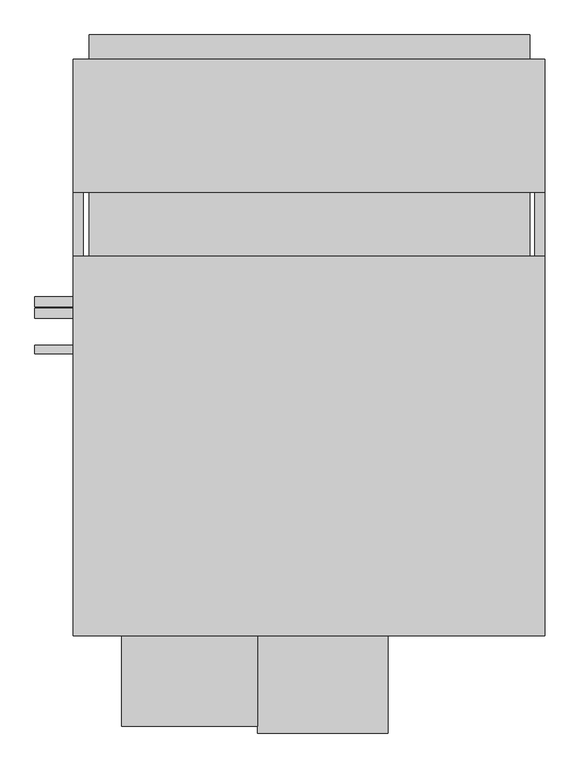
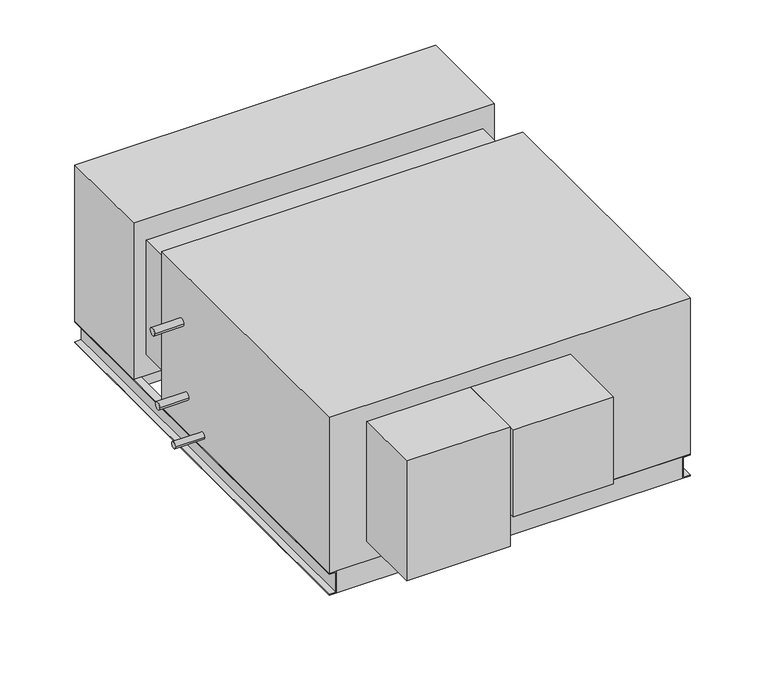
"""IFC4 building model written with IfcOpenShell, lengths in millimetres: proxy geometry, Horizontal_Direct_Drive_Blower_Coil_Unit_-_42DHA_-_CARRIER_-_2-Pipe_Cool-EHeat_NFilterR_W-MixingBox_LH_2022 : Size 16 - 460v/60Hz/3Ph - 8 Row 16.0kW LH."""

from ifc_helpers import new_model, si_unit, point, frame, frame_2d, origin, place, context, project, spatial, polyline, circle_curve, trimmed, segment, composite_curve, outline, extrude, source, transform, mapped, element, save


def mechanical_equipment_eb787f7f(model_context):
    return source(origin(), model_context, "Body", "SweptSolid", [
        extrude(outline(polyline([(88.9, 889.635), (88.9, 686.435), (-1025.525, 686.435), (-1025.525, 889.635), (88.9, 889.635)])), frame((0.0, 0.0, -607.06), z_axis=(0.0, 0.0, 1.0), x_axis=(1.0, 0.0, 0.0)), (0.0, 0.0, 1.0), 60.96),
        extrude(outline(polyline([(-1025.525, 1052.195), (88.9, 1052.195), (88.9, 991.235), (-1025.525, 991.235), (-1025.525, 1052.195)])), frame((0.0, 0.0, -279.4), z_axis=(0.0, 0.0, 1.0), x_axis=(1.0, 0.0, 0.0)), (0.0, 0.0, 1.0), 203.2),
        extrude(outline(polyline([(127.0, 991.235), (127.0, 654.05), (-1066.8, 654.05), (-1066.8, 991.235), (127.0, 991.235)])), frame((0.0, 0.0, -546.1), z_axis=(0.0, 0.0, 1.0), x_axis=(1.0, 0.0, 0.0)), (0.0, 0.0, 1.0), 546.1),
        extrude(outline(polyline([(101.6, -441.325), (101.6, -466.725), (-1041.4, -466.725), (-1041.4, -441.325), (101.6, -441.325)])), frame((0.0, 0.0, -622.3), z_axis=(0.0, 0.0, 1.0), x_axis=(1.0, 0.0, 0.0)), (0.0, 0.0, 1.0), 76.2),
        extrude(outline(polyline([(101.6, 991.235), (101.6, 965.835), (-1041.4, 965.835), (-1041.4, 991.235), (101.6, 991.235)])), frame((0.0, 0.0, -622.3), z_axis=(0.0, 0.0, 1.0), x_axis=(1.0, 0.0, 0.0)), (0.0, 0.0, 1.0), 76.2),
        extrude(outline(polyline([(-546.1, -1041.4), (-546.1, -1066.8), (-549.275, -1066.8), (-549.275, -1044.575), (-619.125, -1044.575), (-619.125, -1066.8), (-622.3, -1066.8), (-622.3, -1041.4), (-546.1, -1041.4)])), frame((0.0, -466.725, 0.0), z_axis=(0.0, 1.0, 0.0), x_axis=(0.0, 0.0, 1.0)), (0.0, 0.0, 1.0), 1457.96),
        extrude(outline(polyline([(-546.1, 101.6), (-622.3, 101.6), (-622.3, 127.0), (-619.125, 127.0), (-619.125, 104.775), (-549.275, 104.775), (-549.275, 127.0), (-546.1, 127.0), (-546.1, 101.6)])), frame((0.0, -466.725, 0.0), z_axis=(0.0, 1.0, 0.0), x_axis=(0.0, 0.0, 1.0)), (0.0, 0.0, 1.0), 1457.96),
        extrude(outline(composite_curve([segment(trimmed(circle_curve(frame_2d((377.825, -177.8)), 12.7), [point((365.125, -177.8))], [point((390.525, -177.8))], False, "CARTESIAN"), True, "CONTINUOUS"), segment(trimmed(circle_curve(frame_2d((377.825, -177.8)), 12.7), [point((390.525, -177.8))], [point((365.125, -177.8))], False, "CARTESIAN"), True, "CONTINUOUS")], self_intersect=False)), frame((-1163.1025559, 0.0, 0.0), z_axis=(1.0, 0.0, 0.0), x_axis=(0.0, 1.0, 0.0)), (0.0, 0.0, 1.0), 96.3025559),
        extrude(outline(composite_curve([segment(trimmed(circle_curve(frame_2d((348.9715397, -419.1)), 12.7), [point((336.2715397, -419.1))], [point((361.6715397, -419.1))], False, "CARTESIAN"), True, "CONTINUOUS"), segment(trimmed(circle_curve(frame_2d((348.9715397, -419.1)), 12.7), [point((361.6715397, -419.1))], [point((336.2715397, -419.1))], False, "CARTESIAN"), True, "CONTINUOUS")], self_intersect=False)), frame((-1163.1025559, 0.0, 0.0), z_axis=(1.0, 0.0, 0.0), x_axis=(0.0, 1.0, 0.0)), (0.0, 0.0, 1.0), 96.3025559),
        extrude(outline(composite_curve([segment(trimmed(circle_curve(frame_2d((257.175, -501.65)), 11.1125), [point((246.0625, -501.65))], [point((268.2875, -501.65))], False, "CARTESIAN"), True, "CONTINUOUS"), segment(trimmed(circle_curve(frame_2d((257.175, -501.65)), 11.1125), [point((268.2875, -501.65))], [point((246.0625, -501.65))], False, "CARTESIAN"), True, "CONTINUOUS")], self_intersect=False)), frame((-1163.1025559, 0.0, 0.0), z_axis=(1.0, 0.0, 0.0), x_axis=(0.0, 1.0, 0.0)), (0.0, 0.0, 1.0), 96.3025559),
        extrude(outline(polyline([(127.0, 492.125), (127.0, -466.725), (-1066.8, -466.725), (-1066.8, 492.125), (127.0, 492.125)])), frame((0.0, 0.0, -546.1), z_axis=(0.0, 0.0, 1.0), x_axis=(1.0, 0.0, 0.0)), (0.0, 0.0, 1.0), 546.1),
        extrude(outline(polyline([(-600.075, -695.325), (-942.975, -695.325), (-942.975, -466.725), (-600.075, -466.725), (-600.075, -695.325)])), frame((0.0, 0.0, -476.25), z_axis=(0.0, 0.0, 1.0), x_axis=(1.0, 0.0, 0.0)), (0.0, 0.0, 1.0), 419.1),
        extrude(outline(polyline([(-1025.525, 654.05), (88.9, 654.05), (88.9, 492.125), (-1025.525, 492.125), (-1025.525, 654.05)])), frame((0.0, 0.0, -473.075), z_axis=(0.0, 0.0, 1.0), x_axis=(1.0, 0.0, 0.0)), (0.0, 0.0, 1.0), 400.05),
        extrude(outline(polyline([(-269.875, -712.7875), (-600.075, -712.7875), (-600.075, -466.725), (-269.875, -466.725), (-269.875, -712.7875)])), frame((0.0, 0.0, -361.95), z_axis=(0.0, 0.0, 1.0), x_axis=(1.0, 0.0, 0.0)), (0.0, 0.0, 1.0), 304.8),
    ])


if __name__ == "__main__":
    model = new_model("IFC4")
    model_context = context("Model", 3, world=origin())
    ifc_project = project(units=[si_unit("LENGTHUNIT", "METRE", prefix="MILLI")], contexts=[model_context])
    site = spatial("IfcSite", under=ifc_project)
    building = spatial("IfcBuilding", under=site)
    placement = place(None, origin())
    mechanical_equipment_shape = mechanical_equipment_eb787f7f(model_context)
    element("IfcBuildingElementProxy", 1, Name="Horizontal_Direct_Drive_Blower_Coil_Unit_-_42DHA_-_CARRIER_-_2-Pipe_Cool-EHeat_NFilterR_W-MixingBox_LH_2022 : Size 16 - 460v/60Hz/3Ph - 8 Row 16.0kW LH", ObjectType="Horizontal_Direct_Drive_Blower_Coil_Unit_-_42DHA_-_CARRIER_-_2-Pipe_Cool-EHeat_NFilterR_W-MixingBox_LH_2022 : Size 16 - 460v/60Hz/3Ph - 8 Row 16.0kW LH", at=placement, inside=building, context=model_context, shape_type="MappedRepresentation", body=[
        mapped(mechanical_equipment_shape, transform((0.0, 0.0, 0.0), x_axis=(1.0, 0.0, 0.0), y_axis=(0.0, 1.0, 0.0), z_axis=(0.0, 0.0, 1.0))),
    ])
    save(model, "model.ifc")
